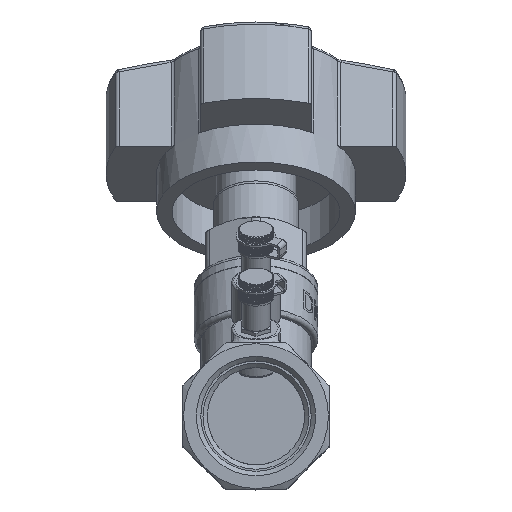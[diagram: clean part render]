
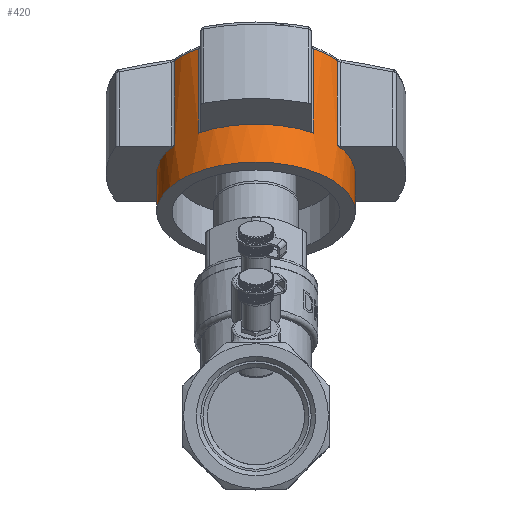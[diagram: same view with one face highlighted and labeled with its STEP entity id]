
A CAD part, top view. The second image highlights one B-rep face of the part: STEP entity #420.
In plain terms, the highlighted cylindrical face has radius 22.5 mm (diameter 45 mm), a full revolution.
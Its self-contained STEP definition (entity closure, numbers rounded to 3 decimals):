
#420=ADVANCED_FACE('',(#11713,#11715),#11717,.T.);
#11713=FACE_BOUND('',#11714,.T.);
#11714=EDGE_LOOP('',(#22735,#22736,#22737,#22738,#22739,#22740,#22741,#22742,#22743,
#22744,#22745,#22746,#22747,#22748,#22749,#22750,#22751));
#11715=FACE_OUTER_BOUND('',#11716,.T.);
#11716=EDGE_LOOP('',(#22752));
#11717=CYLINDRICAL_SURFACE('',#11718,22.5);
#11718=AXIS2_PLACEMENT_3D('',#11719,#11720,#11721);
#11719=CARTESIAN_POINT('',(0.,54.968,-25.321));
#11720=DIRECTION('',(0.,0.866,-0.5));
#11721=DIRECTION('',(-1.,0.,0.));
#22735=ORIENTED_EDGE('',*,*,#29615,.F.);
#22736=ORIENTED_EDGE('',*,*,#29616,.F.);
#22737=ORIENTED_EDGE('',*,*,#29617,.F.);
#22738=ORIENTED_EDGE('',*,*,#29618,.F.);
#22739=ORIENTED_EDGE('',*,*,#29619,.F.);
#22740=ORIENTED_EDGE('',*,*,#29620,.F.);
#22741=ORIENTED_EDGE('',*,*,#29621,.F.);
#22742=ORIENTED_EDGE('',*,*,#29622,.F.);
#22743=ORIENTED_EDGE('',*,*,#29623,.F.);
#22744=ORIENTED_EDGE('',*,*,#29624,.F.);
#22745=ORIENTED_EDGE('',*,*,#29625,.F.);
#22746=ORIENTED_EDGE('',*,*,#29626,.F.);
#22747=ORIENTED_EDGE('',*,*,#29627,.F.);
#22748=ORIENTED_EDGE('',*,*,#29628,.F.);
#22749=ORIENTED_EDGE('',*,*,#29629,.F.);
#22750=ORIENTED_EDGE('',*,*,#29630,.F.);
#22751=ORIENTED_EDGE('',*,*,#29631,.F.);
#22752=ORIENTED_EDGE('',*,*,#29588,.F.);
#29588=EDGE_CURVE('',#32908,#32908,#32909,.T.);
#29615=EDGE_CURVE('',#32950,#32951,#32952,.T.);
#29616=EDGE_CURVE('',#32953,#32950,#32954,.T.);
#29617=EDGE_CURVE('',#32955,#32953,#32956,.T.);
#29618=EDGE_CURVE('',#32957,#32955,#32958,.T.);
#29619=EDGE_CURVE('',#32959,#32957,#32960,.T.);
#29620=EDGE_CURVE('',#32961,#32959,#32962,.T.);
#29621=EDGE_CURVE('',#32963,#32961,#32964,.T.);
#29622=EDGE_CURVE('',#32965,#32963,#32966,.T.);
#29623=EDGE_CURVE('',#32967,#32965,#32968,.T.);
#29624=EDGE_CURVE('',#32969,#32967,#32970,.T.);
#29625=EDGE_CURVE('',#32971,#32969,#32972,.T.);
#29626=EDGE_CURVE('',#32973,#32971,#32974,.T.);
#29627=EDGE_CURVE('',#32975,#32973,#32976,.T.);
#29628=EDGE_CURVE('',#32977,#32975,#32978,.T.);
#29629=EDGE_CURVE('',#32979,#32977,#32980,.T.);
#29630=EDGE_CURVE('',#32981,#32979,#32982,.T.);
#29631=EDGE_CURVE('',#32951,#32981,#32983,.T.);
#32908=VERTEX_POINT('',#38944);
#32909=CIRCLE('',#38945,22.5);
#32950=VERTEX_POINT('',#39283);
#32951=VERTEX_POINT('',#39284);
#32952=CIRCLE('',#39285,22.5);
#32953=VERTEX_POINT('',#39289);
#32954=LINE('',#39290,#39291);
#32955=VERTEX_POINT('',#39293);
#32956=CIRCLE('',#39294,22.5);
#32957=VERTEX_POINT('',#39298);
#32958=LINE('',#39299,#39300);
#32959=VERTEX_POINT('',#39302);
#32960=CIRCLE('',#39303,22.5);
#32961=VERTEX_POINT('',#39307);
#32962=LINE('',#39308,#39309);
#32963=VERTEX_POINT('',#39311);
#32964=CIRCLE('',#39312,22.5);
#32965=VERTEX_POINT('',#39316);
#32966=LINE('',#39317,#39318);
#32967=VERTEX_POINT('',#39320);
#32968=CIRCLE('',#39321,22.5);
#32969=VERTEX_POINT('',#39325);
#32970=LINE('',#39326,#39327);
#32971=VERTEX_POINT('',#39329);
#32972=CIRCLE('',#39330,22.5);
#32973=VERTEX_POINT('',#39334);
#32974=LINE('',#39335,#39336);
#32975=VERTEX_POINT('',#39338);
#32976=CIRCLE('',#39339,22.5);
#32977=VERTEX_POINT('',#39343);
#32978=LINE('',#39344,#39345);
#32979=VERTEX_POINT('',#39347);
#32980=CIRCLE('',#39348,22.5);
#32981=VERTEX_POINT('',#39352);
#32982=LINE('',#39353,#39354);
#32983=CIRCLE('',#39356,22.5);
#38944=CARTESIAN_POINT('',(22.5,46.308,-20.321));
#38945=AXIS2_PLACEMENT_3D('',#38946,#38947,#38948);
#38946=CARTESIAN_POINT('',(0.,46.308,-20.321));
#38947=DIRECTION('',(0.,-0.866,0.5));
#38948=DIRECTION('',(1.,0.,0.));
#39283=CARTESIAN_POINT('',(18.417,61.431,-14.127));
#39284=CARTESIAN_POINT('',(22.5,54.968,-25.321));
#39285=AXIS2_PLACEMENT_3D('',#39286,#39287,#39288);
#39286=CARTESIAN_POINT('',(0.,54.968,-25.321));
#39287=DIRECTION('',(0.,0.866,-0.5));
#39288=DIRECTION('',(0.819,0.287,0.498));
#39289=CARTESIAN_POINT('',(18.417,80.553,-25.167));
#39290=CARTESIAN_POINT('',(18.417,80.553,-25.167));
#39291=VECTOR('',#39292,1.);
#39292=DIRECTION('',(0.,-0.866,0.5));
#39293=CARTESIAN_POINT('',(12.926,83.299,-20.412));
#39294=AXIS2_PLACEMENT_3D('',#39295,#39296,#39297);
#39295=CARTESIAN_POINT('',(0.,74.09,-36.361));
#39296=DIRECTION('',(0.,0.866,-0.5));
#39297=DIRECTION('',(0.574,0.409,0.709));
#39298=CARTESIAN_POINT('',(12.926,64.176,-9.372));
#39299=CARTESIAN_POINT('',(12.926,64.176,-9.372));
#39300=VECTOR('',#39301,1.);
#39301=DIRECTION('',(0.,0.866,-0.5));
#39302=CARTESIAN_POINT('',(-12.926,64.176,-9.372));
#39303=AXIS2_PLACEMENT_3D('',#39304,#39305,#39306);
#39304=CARTESIAN_POINT('',(0.,54.968,-25.321));
#39305=DIRECTION('',(0.,0.866,-0.5));
#39306=DIRECTION('',(-0.574,0.409,0.709));
#39307=CARTESIAN_POINT('',(-12.926,83.299,-20.412));
#39308=CARTESIAN_POINT('',(-12.926,83.299,-20.412));
#39309=VECTOR('',#39310,1.);
#39310=DIRECTION('',(0.,-0.866,0.5));
#39311=CARTESIAN_POINT('',(-18.417,80.553,-25.167));
#39312=AXIS2_PLACEMENT_3D('',#39313,#39314,#39315);
#39313=CARTESIAN_POINT('',(0.,74.09,-36.361));
#39314=DIRECTION('',(0.,0.866,-0.5));
#39315=DIRECTION('',(-0.819,0.287,0.498));
#39316=CARTESIAN_POINT('',(-18.417,61.431,-14.127));
#39317=CARTESIAN_POINT('',(-18.417,61.431,-14.127));
#39318=VECTOR('',#39319,1.);
#39319=DIRECTION('',(0.,0.866,-0.5));
#39320=CARTESIAN_POINT('',(-18.417,48.505,-36.515));
#39321=AXIS2_PLACEMENT_3D('',#39322,#39323,#39324);
#39322=CARTESIAN_POINT('',(0.,54.968,-25.321));
#39323=DIRECTION('',(0.,0.866,-0.5));
#39324=DIRECTION('',(-0.819,-0.287,-0.498));
#39325=CARTESIAN_POINT('',(-18.417,67.627,-47.555));
#39326=CARTESIAN_POINT('',(-18.417,67.627,-47.555));
#39327=VECTOR('',#39328,1.);
#39328=DIRECTION('',(0.,-0.866,0.5));
#39329=CARTESIAN_POINT('',(-12.926,64.882,-52.311));
#39330=AXIS2_PLACEMENT_3D('',#39331,#39332,#39333);
#39331=CARTESIAN_POINT('',(0.,74.09,-36.361));
#39332=DIRECTION('',(0.,0.866,-0.5));
#39333=DIRECTION('',(-0.574,-0.409,-0.709));
#39334=CARTESIAN_POINT('',(-12.926,45.759,-41.27));
#39335=CARTESIAN_POINT('',(-12.926,45.759,-41.27));
#39336=VECTOR('',#39337,1.);
#39337=DIRECTION('',(0.,0.866,-0.5));
#39338=CARTESIAN_POINT('',(12.926,45.759,-41.27));
#39339=AXIS2_PLACEMENT_3D('',#39340,#39341,#39342);
#39340=CARTESIAN_POINT('',(0.,54.968,-25.321));
#39341=DIRECTION('',(0.,0.866,-0.5));
#39342=DIRECTION('',(0.574,-0.409,-0.709));
#39343=CARTESIAN_POINT('',(12.926,64.882,-52.311));
#39344=CARTESIAN_POINT('',(12.926,64.882,-52.311));
#39345=VECTOR('',#39346,1.);
#39346=DIRECTION('',(0.,-0.866,0.5));
#39347=CARTESIAN_POINT('',(18.417,67.627,-47.555));
#39348=AXIS2_PLACEMENT_3D('',#39349,#39350,#39351);
#39349=CARTESIAN_POINT('',(0.,74.09,-36.361));
#39350=DIRECTION('',(0.,0.866,-0.5));
#39351=DIRECTION('',(0.819,-0.287,-0.498));
#39352=CARTESIAN_POINT('',(18.417,48.505,-36.515));
#39353=CARTESIAN_POINT('',(18.417,48.505,-36.515));
#39354=VECTOR('',#39355,1.);
#39355=DIRECTION('',(0.,0.866,-0.5));
#39356=AXIS2_PLACEMENT_3D('',#39357,#39358,#39359);
#39357=CARTESIAN_POINT('',(0.,54.968,-25.321));
#39358=DIRECTION('',(0.,0.866,-0.5));
#39359=DIRECTION('',(1.,0.,0.));
